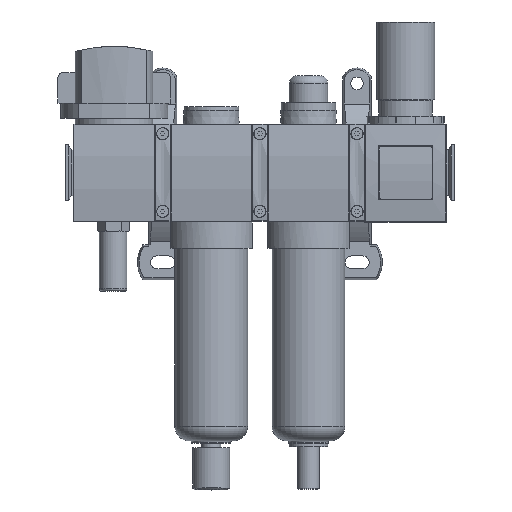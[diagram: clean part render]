
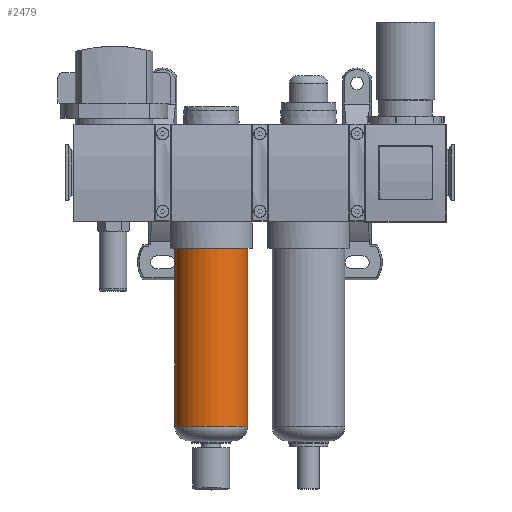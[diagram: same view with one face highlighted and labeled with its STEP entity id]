
A CAD part, top view. The second image highlights one B-rep face of the part: STEP entity #2479.
In plain terms, the highlighted cylindrical face has radius 18.75 mm (diameter 37.5 mm), a full revolution.
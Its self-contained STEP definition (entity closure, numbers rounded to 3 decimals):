
#2479 = ADVANCED_FACE( '', ( #5000, #5001 ), #5002, .T. );
#5000 = FACE_OUTER_BOUND( '', #7737, .T. );
#5001 = FACE_OUTER_BOUND( '', #7738, .T. );
#5002 = CYLINDRICAL_SURFACE( '', #7739, 18.75 );
#7737 = EDGE_LOOP( '', ( #13648 ) );
#7738 = EDGE_LOOP( '', ( #13649 ) );
#7739 = AXIS2_PLACEMENT_3D( '', #13650, #13651, #13652 );
#13648 = ORIENTED_EDGE( '', *, *, #16995, .F. );
#13649 = ORIENTED_EDGE( '', *, *, #15804, .T. );
#13650 = CARTESIAN_POINT( '', ( 0., -91.5, 0. ) );
#13651 = DIRECTION( '', ( 0., 1., 0. ) );
#13652 = DIRECTION( '', ( 0., 0., -1. ) );
#15804 = EDGE_CURVE( '', #18837, #18837, #18838, .T. );
#16995 = EDGE_CURVE( '', #20676, #20676, #20677, .T. );
#18837 = VERTEX_POINT( '', #23174 );
#18838 = CIRCLE( '', #23175, 18.75 );
#20676 = VERTEX_POINT( '', #25825 );
#20677 = CIRCLE( '', #25826, 18.75 );
#23174 = CARTESIAN_POINT( '', ( 0., 0., -18.75 ) );
#23175 = AXIS2_PLACEMENT_3D( '', #28282, #28283, #28284 );
#25825 = CARTESIAN_POINT( '', ( 0., -91.5, -18.75 ) );
#25826 = AXIS2_PLACEMENT_3D( '', #29686, #29687, #29688 );
#28282 = CARTESIAN_POINT( '', ( 0., 0., 0. ) );
#28283 = DIRECTION( '', ( 0., -1., 0. ) );
#28284 = DIRECTION( '', ( 0., 0., -1. ) );
#29686 = CARTESIAN_POINT( '', ( 0., -91.5, 0. ) );
#29687 = DIRECTION( '', ( 0., -1., 0. ) );
#29688 = DIRECTION( '', ( 0., 0., -1. ) );
